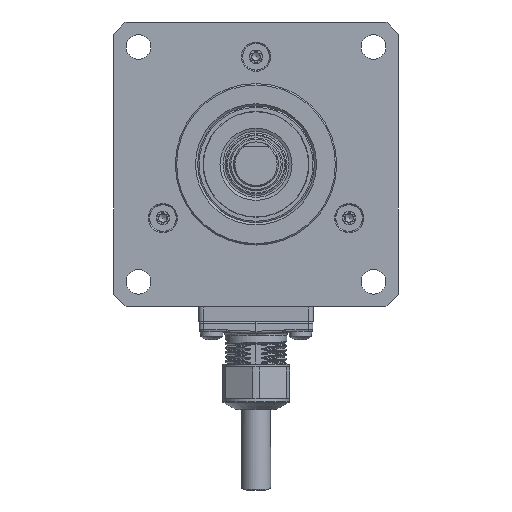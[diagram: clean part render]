
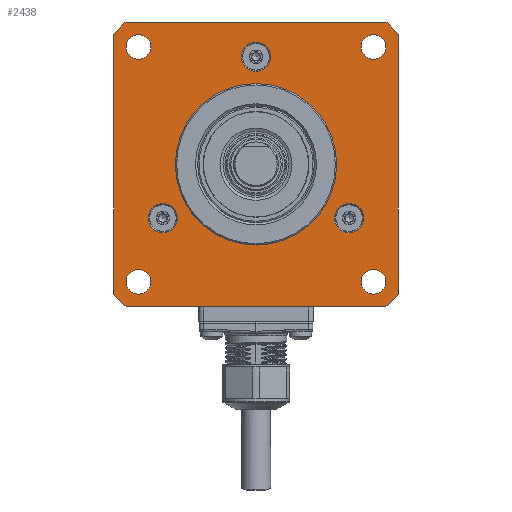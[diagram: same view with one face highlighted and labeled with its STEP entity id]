
A CAD part, left-side view. The second image highlights one B-rep face of the part: STEP entity #2438.
In plain terms, the highlighted planar face has unit normal (-1, 0, 0).
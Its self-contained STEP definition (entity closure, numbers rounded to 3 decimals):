
#2438 = ADVANCED_FACE( '', ( #5104, #5105, #5106, #5107, #5108, #5109, #5110, #5111, #5112 ), #5113, .T. );
#5104 = FACE_OUTER_BOUND( '', #82845, .T. );
#5105 = FACE_BOUND( '', #82846, .T. );
#5106 = FACE_BOUND( '', #82847, .T. );
#5107 = FACE_BOUND( '', #82848, .T. );
#5108 = FACE_BOUND( '', #82849, .T. );
#5109 = FACE_BOUND( '', #82850, .T. );
#5110 = FACE_BOUND( '', #82851, .T. );
#5111 = FACE_BOUND( '', #82852, .T. );
#5112 = FACE_BOUND( '', #82853, .T. );
#5113 = PLANE( '', #82854 );
#82845 = EDGE_LOOP( '', ( #93996, #93997, #93998, #93999, #94000, #94001, #94002, #94003 ) );
#82846 = EDGE_LOOP( '', ( #94004 ) );
#82847 = EDGE_LOOP( '', ( #94005 ) );
#82848 = EDGE_LOOP( '', ( #94006 ) );
#82849 = EDGE_LOOP( '', ( #94007 ) );
#82850 = EDGE_LOOP( '', ( #94008 ) );
#82851 = EDGE_LOOP( '', ( #94009 ) );
#82852 = EDGE_LOOP( '', ( #94010 ) );
#82853 = EDGE_LOOP( '', ( #94011 ) );
#82854 = AXIS2_PLACEMENT_3D( '', #94012, #94013, #94014 );
#93996 = ORIENTED_EDGE( '', *, *, #94347, .F. );
#93997 = ORIENTED_EDGE( '', *, *, #96857, .F. );
#93998 = ORIENTED_EDGE( '', *, *, #97099, .F. );
#93999 = ORIENTED_EDGE( '', *, *, #96380, .F. );
#94000 = ORIENTED_EDGE( '', *, *, #97047, .F. );
#94001 = ORIENTED_EDGE( '', *, *, #96374, .F. );
#94002 = ORIENTED_EDGE( '', *, *, #97072, .F. );
#94003 = ORIENTED_EDGE( '', *, *, #96793, .F. );
#94004 = ORIENTED_EDGE( '', *, *, #95407, .T. );
#94005 = ORIENTED_EDGE( '', *, *, #95404, .T. );
#94006 = ORIENTED_EDGE( '', *, *, #95759, .T. );
#94007 = ORIENTED_EDGE( '', *, *, #94608, .F. );
#94008 = ORIENTED_EDGE( '', *, *, #96065, .F. );
#94009 = ORIENTED_EDGE( '', *, *, #95560, .F. );
#94010 = ORIENTED_EDGE( '', *, *, #94331, .F. );
#94011 = ORIENTED_EDGE( '', *, *, #96797, .F. );
#94012 = CARTESIAN_POINT( '', ( 7.62, -0.449, 0. ) );
#94013 = DIRECTION( '', ( -1., 0., 0. ) );
#94014 = DIRECTION( '', ( 0., 0., 1. ) );
#94331 = EDGE_CURVE( '', #97164, #97164, #97165, .T. );
#94347 = EDGE_CURVE( '', #97192, #97193, #97194, .T. );
#94608 = EDGE_CURVE( '', #97664, #97664, #97665, .T. );
#95404 = EDGE_CURVE( '', #98984, #98984, #98985, .T. );
#95407 = EDGE_CURVE( '', #98989, #98989, #98990, .T. );
#95560 = EDGE_CURVE( '', #99223, #99223, #99224, .T. );
#95759 = EDGE_CURVE( '', #99517, #99517, #99518, .T. );
#96065 = EDGE_CURVE( '', #99952, #99952, #99953, .T. );
#96374 = EDGE_CURVE( '', #100375, #100376, #100377, .T. );
#96380 = EDGE_CURVE( '', #100383, #100384, #100385, .T. );
#96793 = EDGE_CURVE( '', #97193, #100924, #100925, .T. );
#96797 = EDGE_CURVE( '', #100929, #100929, #100930, .T. );
#96857 = EDGE_CURVE( '', #101003, #97192, #101004, .T. );
#97047 = EDGE_CURVE( '', #100376, #100383, #101209, .T. );
#97072 = EDGE_CURVE( '', #100924, #100375, #101235, .T. );
#97099 = EDGE_CURVE( '', #100384, #101003, #101262, .T. );
#97164 = VERTEX_POINT( '', #101384 );
#97165 = CIRCLE( '', #101385, 2.75 );
#97192 = VERTEX_POINT( '', #101446 );
#97193 = VERTEX_POINT( '', #101447 );
#97194 = CIRCLE( '', #101448, 43. );
#97664 = VERTEX_POINT( '', #103477 );
#97665 = CIRCLE( '', #103478, 2.75 );
#98984 = VERTEX_POINT( '', #109139 );
#98985 = CIRCLE( '', #109140, 3.25 );
#98989 = VERTEX_POINT( '', #109144 );
#98990 = CIRCLE( '', #109145, 3.25 );
#99223 = VERTEX_POINT( '', #109872 );
#99224 = CIRCLE( '', #109873, 2.75 );
#99517 = VERTEX_POINT( '', #111027 );
#99518 = CIRCLE( '', #111028, 3.25 );
#99952 = VERTEX_POINT( '', #117089 );
#99953 = CIRCLE( '', #117090, 2.75 );
#100375 = VERTEX_POINT( '', #118541 );
#100376 = VERTEX_POINT( '', #118542 );
#100377 = LINE( '', #118543, #118544 );
#100383 = VERTEX_POINT( '', #118564 );
#100384 = VERTEX_POINT( '', #118565 );
#100385 = LINE( '', #118566, #118567 );
#100924 = VERTEX_POINT( '', #120546 );
#100925 = LINE( '', #120547, #120548 );
#100929 = VERTEX_POINT( '', #120553 );
#100930 = CIRCLE( '', #120554, 18. );
#101003 = VERTEX_POINT( '', #120864 );
#101004 = LINE( '', #120865, #120866 );
#101209 = CIRCLE( '', #121558, 43. );
#101235 = CIRCLE( '', #121644, 43. );
#101262 = CIRCLE( '', #121729, 43. );
#101384 = CARTESIAN_POINT( '', ( 7.62, 23.45, -26.2 ) );
#101385 = AXIS2_PLACEMENT_3D( '', #121882, #121883, #121884 );
#101446 = CARTESIAN_POINT( '', ( 7.62, -31.75, -28.999 ) );
#101447 = CARTESIAN_POINT( '', ( 7.62, -28.999, -31.75 ) );
#101448 = AXIS2_PLACEMENT_3D( '', #121901, #121902, #121903 );
#103477 = CARTESIAN_POINT( '', ( 7.62, 23.45, 26.2 ) );
#103478 = AXIS2_PLACEMENT_3D( '', #122167, #122168, #122169 );
#109139 = CARTESIAN_POINT( '', ( 7.62, -23.599, -13.625 ) );
#109140 = AXIS2_PLACEMENT_3D( '', #122991, #122992, #122993 );
#109144 = CARTESIAN_POINT( '', ( 7.62, 23.599, -13.625 ) );
#109145 = AXIS2_PLACEMENT_3D( '', #122997, #122998, #122999 );
#109872 = CARTESIAN_POINT( '', ( 7.62, -28.95, -26.2 ) );
#109873 = AXIS2_PLACEMENT_3D( '', #123171, #123172, #123173 );
#111027 = CARTESIAN_POINT( '', ( 7.62, 0., 27.25 ) );
#111028 = AXIS2_PLACEMENT_3D( '', #123350, #123351, #123352 );
#117089 = CARTESIAN_POINT( '', ( 7.62, -28.95, 26.2 ) );
#117090 = AXIS2_PLACEMENT_3D( '', #123594, #123595, #123596 );
#118541 = CARTESIAN_POINT( '', ( 7.62, 31.75, -28.999 ) );
#118542 = CARTESIAN_POINT( '', ( 7.62, 31.75, 28.999 ) );
#118543 = CARTESIAN_POINT( '', ( 7.62, 31.75, 28.999 ) );
#118544 = VECTOR( '', #123887, 1000. );
#118564 = CARTESIAN_POINT( '', ( 7.62, 28.999, 31.75 ) );
#118565 = CARTESIAN_POINT( '', ( 7.62, -28.999, 31.75 ) );
#118566 = CARTESIAN_POINT( '', ( 7.62, -28.999, 31.75 ) );
#118567 = VECTOR( '', #123890, 1000. );
#120546 = CARTESIAN_POINT( '', ( 7.62, 28.999, -31.75 ) );
#120547 = CARTESIAN_POINT( '', ( 7.62, 28.999, -31.75 ) );
#120548 = VECTOR( '', #124276, 1000. );
#120553 = CARTESIAN_POINT( '', ( 7.62, -18., 0. ) );
#120554 = AXIS2_PLACEMENT_3D( '', #124278, #124279, #124280 );
#120864 = CARTESIAN_POINT( '', ( 7.62, -31.75, 28.999 ) );
#120865 = CARTESIAN_POINT( '', ( 7.62, -31.75, -28.999 ) );
#120866 = VECTOR( '', #124327, 1000. );
#121558 = AXIS2_PLACEMENT_3D( '', #124422, #124423, #124424 );
#121644 = AXIS2_PLACEMENT_3D( '', #124428, #124429, #124430 );
#121729 = AXIS2_PLACEMENT_3D( '', #124432, #124433, #124434 );
#121882 = CARTESIAN_POINT( '', ( 7.62, 26.2, -26.2 ) );
#121883 = DIRECTION( '', ( -1., 0., 0. ) );
#121884 = DIRECTION( '', ( 0., -1., 0. ) );
#121901 = CARTESIAN_POINT( '', ( 7.62, 0., 0. ) );
#121902 = DIRECTION( '', ( 1., 0., 0. ) );
#121903 = DIRECTION( '', ( 0., -1., 0. ) );
#122167 = CARTESIAN_POINT( '', ( 7.62, 26.2, 26.2 ) );
#122168 = DIRECTION( '', ( -1., 0., 0. ) );
#122169 = DIRECTION( '', ( 0., -1., 0. ) );
#122991 = CARTESIAN_POINT( '', ( 7.62, -20.785, -12. ) );
#122992 = DIRECTION( '', ( 1., 0., 0. ) );
#122993 = DIRECTION( '', ( 0., -0.866, -0.5 ) );
#122997 = CARTESIAN_POINT( '', ( 7.62, 20.785, -12. ) );
#122998 = DIRECTION( '', ( 1., 0., 0. ) );
#122999 = DIRECTION( '', ( 0., 0.866, -0.5 ) );
#123171 = CARTESIAN_POINT( '', ( 7.62, -26.2, -26.2 ) );
#123172 = DIRECTION( '', ( -1., 0., 0. ) );
#123173 = DIRECTION( '', ( 0., -1., 0. ) );
#123350 = CARTESIAN_POINT( '', ( 7.62, 0., 24. ) );
#123351 = DIRECTION( '', ( 1., 0., 0. ) );
#123352 = DIRECTION( '', ( 0., 0., 1. ) );
#123594 = CARTESIAN_POINT( '', ( 7.62, -26.2, 26.2 ) );
#123595 = DIRECTION( '', ( -1., 0., 0. ) );
#123596 = DIRECTION( '', ( 0., -1., 0. ) );
#123887 = DIRECTION( '', ( 0., 0., 1. ) );
#123890 = DIRECTION( '', ( 0., -1., 0. ) );
#124276 = DIRECTION( '', ( 0., 1., 0. ) );
#124278 = CARTESIAN_POINT( '', ( 7.62, 0., 0. ) );
#124279 = DIRECTION( '', ( -1., 0., 0. ) );
#124280 = DIRECTION( '', ( 0., -1., 0. ) );
#124327 = DIRECTION( '', ( 0., 0., -1. ) );
#124422 = CARTESIAN_POINT( '', ( 7.62, 0., 0. ) );
#124423 = DIRECTION( '', ( 1., 0., 0. ) );
#124424 = DIRECTION( '', ( 0., -1., 0. ) );
#124428 = CARTESIAN_POINT( '', ( 7.62, 0., 0. ) );
#124429 = DIRECTION( '', ( 1., 0., 0. ) );
#124430 = DIRECTION( '', ( 0., -1., 0. ) );
#124432 = CARTESIAN_POINT( '', ( 7.62, 0., 0. ) );
#124433 = DIRECTION( '', ( 1., 0., 0. ) );
#124434 = DIRECTION( '', ( 0., -1., 0. ) );
